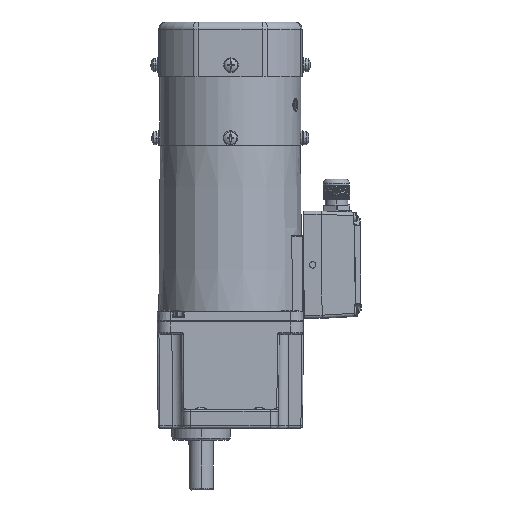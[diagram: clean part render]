
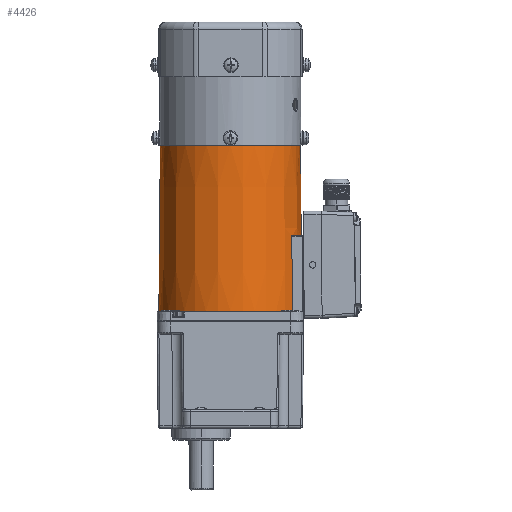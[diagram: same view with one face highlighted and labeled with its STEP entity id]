
A CAD part, front view. The second image highlights one B-rep face of the part: STEP entity #4426.
In plain terms, the highlighted conical face has half-angle 0.5 degrees and reference radius 43.555 mm.
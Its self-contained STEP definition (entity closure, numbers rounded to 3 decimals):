
#1725 = DIRECTION ( 'NONE',  ( 1., 0., 0. ) ) ;
#2421 = VERTEX_POINT ( 'NONE', #4677 ) ;
#2435 = VERTEX_POINT ( 'NONE', #53683 ) ;
#3352 = AXIS2_PLACEMENT_3D ( 'NONE', #15955, #5580, #55233 ) ;
#4426 = ADVANCED_FACE ( 'NONE', ( #53346 ), #15437, .T. ) ;
#4497 = DIRECTION ( 'NONE',  ( -0.009, 0., -1. ) ) ;
#4677 = CARTESIAN_POINT ( 'NONE',  ( 38.105, -22., 7. ) ) ;
#5142 = ORIENTED_EDGE ( 'NONE', *, *, #42038, .T. ) ;
#5519 = CARTESIAN_POINT ( 'NONE',  ( 0., 0., 53.5 ) ) ;
#5580 = DIRECTION ( 'NONE',  ( 0., 0., 1. ) ) ;
#6053 = EDGE_CURVE ( 'NONE', #43887, #2421, #41709, .T. ) ;
#6121 = CARTESIAN_POINT ( 'NONE',  ( 43.11, 0., 109. ) ) ;
#8891 = CARTESIAN_POINT ( 'NONE',  ( 0., 0., 58. ) ) ;
#10390 = CARTESIAN_POINT ( 'NONE',  ( 37.872, -21.596, 53.243 ) ) ;
#10698 = DIRECTION ( 'NONE',  ( 0., 0., 1. ) ) ;
#10885 = EDGE_CURVE ( 'NONE', #63568, #46331, #33785, .T. ) ;
#12189 = ORIENTED_EDGE ( 'NONE', *, *, #47019, .T. ) ;
#12235 = ORIENTED_EDGE ( 'NONE', *, *, #6053, .T. ) ;
#12996 = EDGE_CURVE ( 'NONE', #2435, #52534, #45268, .T. ) ;
#15209 = EDGE_CURVE ( 'NONE', #2435, #43887, #54138, .T. ) ;
#15437 = CONICAL_SURFACE ( 'NONE', #23709, 43.555, 0.009 ) ;
#15594 = CARTESIAN_POINT ( 'NONE',  ( 37.991, -21.382, 53.5 ) ) ;
#15955 = CARTESIAN_POINT ( 'NONE',  ( 0., 0., 7. ) ) ;
#18114 = ORIENTED_EDGE ( 'NONE', *, *, #12996, .F. ) ;
#18249 = AXIS2_PLACEMENT_3D ( 'NONE', #43446, #19380, #23920 ) ;
#19380 = DIRECTION ( 'NONE',  ( 0., 0., 1. ) ) ;
#20769 = CARTESIAN_POINT ( 'NONE',  ( 37.887, -21.568, 53.332 ) ) ;
#21402 = AXIS2_PLACEMENT_3D ( 'NONE', #5519, #10698, #52847 ) ;
#22340 = ORIENTED_EDGE ( 'NONE', *, *, #10885, .T. ) ;
#22737 = LINE ( 'NONE', #43214, #35324 ) ;
#23709 = AXIS2_PLACEMENT_3D ( 'NONE', #8891, #51089, #1725 ) ;
#23920 = DIRECTION ( 'NONE',  ( -1., 0., 0. ) ) ;
#23922 = CARTESIAN_POINT ( 'NONE',  ( 38.105, -22., 7. ) ) ;
#24982 = VERTEX_POINT ( 'NONE', #52117 ) ;
#28801 = CARTESIAN_POINT ( 'NONE',  ( 37.872, -21.597, 53.203 ) ) ;
#29441 = CARTESIAN_POINT ( 'NONE',  ( 37.95, -21.731, 37.802 ) ) ;
#30185 = CARTESIAN_POINT ( 'NONE',  ( 37.903, -21.538, 53.379 ) ) ;
#30214 = CARTESIAN_POINT ( 'NONE',  ( 38.038, -21.297, 53.5 ) ) ;
#32445 = B_SPLINE_CURVE_WITH_KNOTS ( 'NONE', 3,
 ( #23922, #64181, #29441, #28801 ),
 .UNSPECIFIED., .F., .F.,
 ( 4, 4 ),
 ( 0., 1. ),
 .UNSPECIFIED. ) ;
#33785 = CIRCLE ( 'NONE', #21402, 43.594 ) ;
#34590 = CARTESIAN_POINT ( 'NONE',  ( -44., 0., 7. ) ) ;
#35321 = CARTESIAN_POINT ( 'NONE',  ( -43.11, 0., 109. ) ) ;
#35324 = VECTOR ( 'NONE', #53562, 1000. ) ;
#35396 = CARTESIAN_POINT ( 'NONE',  ( 38.038, -21.297, 53.5 ) ) ;
#37190 = EDGE_CURVE ( 'NONE', #52534, #46331, #22737, .T. ) ;
#40420 = CARTESIAN_POINT ( 'NONE',  ( 43.594, 0., 53.5 ) ) ;
#41709 = CIRCLE ( 'NONE', #3352, 44. ) ;
#42038 = EDGE_CURVE ( 'NONE', #24982, #63568, #51552, .T. ) ;
#43214 = CARTESIAN_POINT ( 'NONE',  ( 43.11, 0., 109. ) ) ;
#43446 = CARTESIAN_POINT ( 'NONE',  ( 0., 0., 109. ) ) ;
#43887 = VERTEX_POINT ( 'NONE', #34590 ) ;
#45143 = CARTESIAN_POINT ( 'NONE',  ( 37.95, -21.454, 53.469 ) ) ;
#45268 = CIRCLE ( 'NONE', #18249, 43.11 ) ;
#46331 = VERTEX_POINT ( 'NONE', #40420 ) ;
#47019 = EDGE_CURVE ( 'NONE', #2421, #24982, #32445, .T. ) ;
#50010 = CARTESIAN_POINT ( 'NONE',  ( 37.909, -21.528, 53.393 ) ) ;
#51089 = DIRECTION ( 'NONE',  ( 0., 0., -1. ) ) ;
#51552 = B_SPLINE_CURVE_WITH_KNOTS ( 'NONE', 3,
 ( #54873, #10390, #60070, #20769, #59418, #30185, #50010, #45143, #15594, #35396 ),
 .UNSPECIFIED., .F., .F.,
 ( 4, 2, 2, 2, 4 ),
 ( 0., 0.25, 0.375, 0.5, 1. ),
 .UNSPECIFIED. ) ;
#52117 = CARTESIAN_POINT ( 'NONE',  ( 37.872, -21.597, 53.203 ) ) ;
#52534 = VERTEX_POINT ( 'NONE', #6121 ) ;
#52847 = DIRECTION ( 'NONE',  ( 0.873, -0.489, 0. ) ) ;
#53346 = FACE_OUTER_BOUND ( 'NONE', #56786, .T. ) ;
#53562 = DIRECTION ( 'NONE',  ( 0.009, 0., -1. ) ) ;
#53683 = CARTESIAN_POINT ( 'NONE',  ( -43.11, 0., 109. ) ) ;
#54138 = LINE ( 'NONE', #35321, #54795 ) ;
#54795 = VECTOR ( 'NONE', #4497, 1000. ) ;
#54873 = CARTESIAN_POINT ( 'NONE',  ( 37.872, -21.597, 53.203 ) ) ;
#55233 = DIRECTION ( 'NONE',  ( -1., 0., 0. ) ) ;
#56786 = EDGE_LOOP ( 'NONE', ( #62075, #18114, #60600, #12235, #12189, #5142, #22340 ) ) ;
#59418 = CARTESIAN_POINT ( 'NONE',  ( 37.892, -21.559, 53.348 ) ) ;
#60070 = CARTESIAN_POINT ( 'NONE',  ( 37.876, -21.589, 53.28 ) ) ;
#60600 = ORIENTED_EDGE ( 'NONE', *, *, #15209, .T. ) ;
#62075 = ORIENTED_EDGE ( 'NONE', *, *, #37190, .F. ) ;
#63568 = VERTEX_POINT ( 'NONE', #30214 ) ;
#64181 = CARTESIAN_POINT ( 'NONE',  ( 38.028, -21.866, 22.401 ) ) ;
